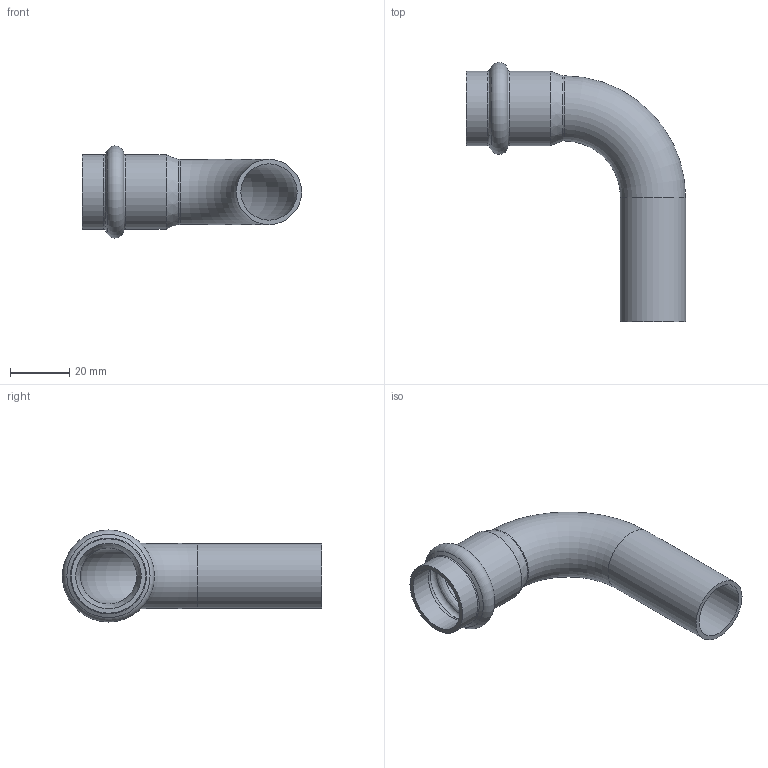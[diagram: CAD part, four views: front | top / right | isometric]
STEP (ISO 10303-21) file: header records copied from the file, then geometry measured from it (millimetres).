
FILE_DESCRIPTION((''),'2;1');
FILE_NAME('G:\Technics\CAD\Bauteile\022\69001A22(2).stp','2008-02-18T10:51:25',('herberg'),(''),'Autodesk Inventor 2008','Autodesk Inventor 2008','');
FILE_SCHEMA(('AUTOMOTIVE_DESIGN { 1 0 10303 214 1 1 1 1 }'));
Length unit declared in the file: millimetre
Products named in the file (1): 69001A22(2)
Bounding box: 74 x 87.54 x 31.09 mm (x, y, z)
Volume: 12746.2 mm3; surface area: 17202.6 mm2
Topology: 1 solids, 1 shells, 22 faces, 47 edges, 27 vertices
Faces by surface type: cylinder 8, torus 4, cone 4, bspline 4, plane 2
Full cylindrical faces by diameter (mm): 19 x2, 22 x2, 22.15 x2, 25.15 x2
Entity records: 634 total; most frequent: CARTESIAN_POINT 243, DIRECTION 82, ORIENTED_EDGE 44, EDGE_LOOP 44, AXIS2_PLACEMENT_3D 41, VERTEX_POINT 22, CIRCLE 22, EDGE_CURVE 22
